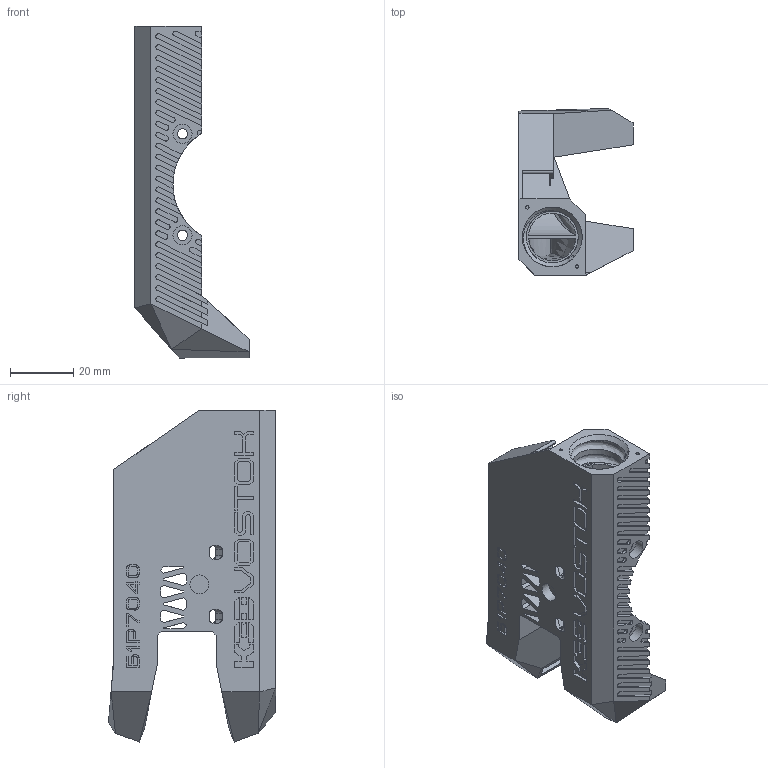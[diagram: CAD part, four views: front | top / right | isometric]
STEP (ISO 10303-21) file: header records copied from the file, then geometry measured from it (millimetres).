
FILE_DESCRIPTION(/* description */ ('CAx-IF Rec.Pracs.---Representation and Presentation of Product Manufacturing Information (PMI)---4.0---2014-10-13','CAx-IF Rec.Pracs.---3D Tessellated Geometry---0.4---2014-09-14','2;1'),/* implementation_level */ '2;1');
FILE_NAME(/* name */ 'B1R7040',/* time_stamp */ '2025-06-14T03:27:34+03:00',/* author */ (''),/* organization */ (''),/* preprocessor_version */ 'ST-DEVELOPER v20',/* originating_system */ 'SIEMENS PLM Software NX2406.6001',/* authorisation */ $);
FILE_SCHEMA (('AP242_MANAGED_MODEL_BASED_3D_ENGINEERING_MIM_LF { 1 0 10303 442 3 1 4 }'));
Length unit declared in the file: millimetre
Products named in the file (1): B1R7040
Bounding box: 36 x 52.7 x 104.72 mm (x, y, z)
Volume: 33136.7 mm3; surface area: 27019.7 mm2
Topology: 1 solids, 1 shells, 584 faces, 1626 edges, 1072 vertices
Faces by surface type: plane 423, cylinder 104, bspline 53, cone 4
Full cylindrical faces by diameter (mm): 1 x2, 3.2 x3, 6 x3
Entity records: 23637 total; most frequent: CARTESIAN_POINT 8083, ORIENTED_EDGE 3222, DIRECTION 2412, EDGE_CURVE 1611, VERTEX_POINT 1069, LINE 896, VECTOR 896, AXIS2_PLACEMENT_3D 758
